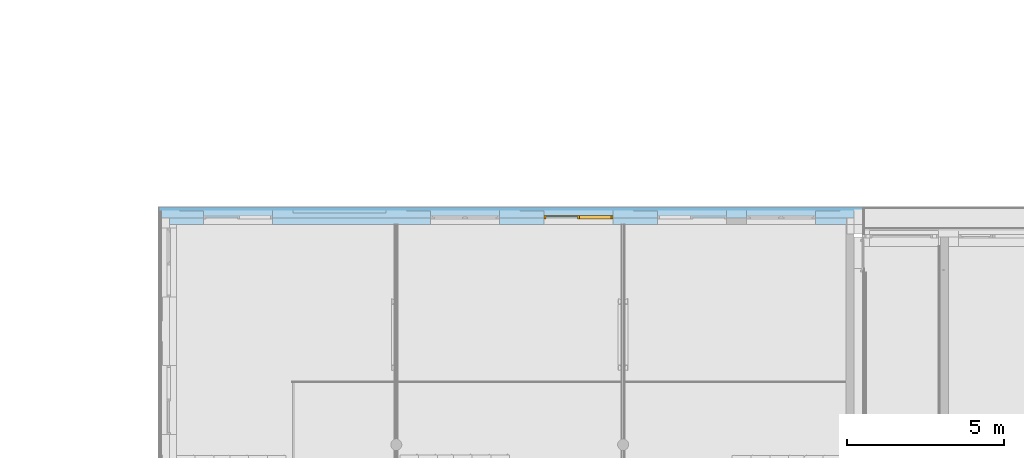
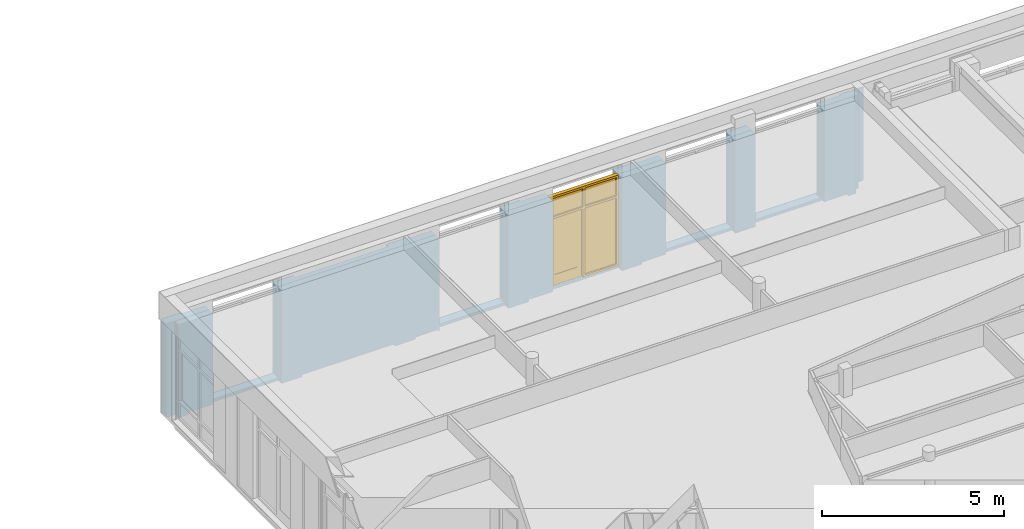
# One storey, part 42 of 167: 1 door, 11 openings, 1 element without a shape of its own, plus 3 elements that do not belong to this part.
"""IFC2X3 building model written with IfcOpenShell, lengths in millimetres."""

from ifc_helpers import new_model, entity, si_unit, converted_unit, derived_unit, money_unit, direction, frame, origin_with_axes, place, context, subcontext, project, spatial, open_shell, faceted_brep, surface_model, source, transform, mapped, material, type_object, type_shapes, element, fill, aggregate, save


model = new_model("IFC2X3")

# Units and contexts
model_context = context("Model", 3, precision=0.01, world=origin_with_axes(), true_north=direction((0.0, 1.0)))
plan_context = context("Plan", 3, precision=0.01, world=origin_with_axes(), true_north=direction((0.0, 1.0)))
body_context = subcontext(model_context, "Body", "Model", "MODEL_VIEW")
ifc_project = project(units=[si_unit("LENGTHUNIT", "METRE", prefix="MILLI"), si_unit("AREAUNIT", "SQUARE_METRE"), si_unit("VOLUMEUNIT", "CUBIC_METRE"), converted_unit("PLANEANGLEUNIT", "DEGREE", entity("IfcPlaneAngleMeasure", 0.0174532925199), si_unit("PLANEANGLEUNIT", "RADIAN"), dimensions=[0, 0, 0, 0, 0, 0, 0]), si_unit("SOLIDANGLEUNIT", "STERADIAN"), money_unit("EUR"), converted_unit("TIMEUNIT", "Year", entity("IfcTimeMeasure", 31556926.0), si_unit("TIMEUNIT", "SECOND"), dimensions=[0, 0, 1, 0, 0, 0, 0]), si_unit("MASSUNIT", "GRAM", prefix="KILO"), si_unit("THERMODYNAMICTEMPERATUREUNIT", "DEGREE_CELSIUS"), si_unit("LUMINOUSINTENSITYUNIT", "LUMEN"), si_unit("ENERGYUNIT", "JOULE", prefix="MEGA"), derived_unit("THERMALCONDUCTANCEUNIT", [(si_unit("POWERUNIT", "WATT"), 1), (si_unit("LENGTHUNIT", "METRE"), -1), (si_unit("THERMODYNAMICTEMPERATUREUNIT", "KELVIN"), -1)]), derived_unit("SPECIFICHEATCAPACITYUNIT", [(si_unit("ENERGYUNIT", "JOULE"), 1), (si_unit("MASSUNIT", "GRAM", prefix="KILO"), -1), (si_unit("THERMODYNAMICTEMPERATUREUNIT", "KELVIN"), -1)]), derived_unit("MASSDENSITYUNIT", [(si_unit("MASSUNIT", "GRAM", prefix="KILO"), 1), (si_unit("VOLUMEUNIT", "CUBIC_METRE"), -1)])], contexts=[model_context, plan_context])

# Site, building, storey
site_placement = place(None, origin_with_axes())
site = spatial("IfcSite", under=ifc_project, at=site_placement, Name="Site", CompositionType="ELEMENT")
building_placement = place(site_placement, origin_with_axes())
building = spatial("IfcBuilding", under=site, at=building_placement, Name="Naam gebouw", CompositionType="ELEMENT")
storey_placement = place(building_placement, origin_with_axes())
storey = spatial("IfcBuildingStorey", under=building, at=storey_placement, Name="Begane grond", CompositionType="ELEMENT", Elevation=0.0)

# Door
door_style = type_object("IfcDoorStyle", Name="D1 bl zl1-b 24", ConstructionType="NOTDEFINED", OperationType="SINGLE_SWING_LEFT", ParameterTakesPrecedence=False, Sizeable=False)
shared_shape = source(origin_with_axes(), body_context, "Body", "SurfaceModel", [
    faceted_brep([(1095.0, 0.0, 0.0), (1095.0, -114.0, 0.0), (1028.0, -114.0, 0.0), (1028.0, 0.0, 0.0), (1095.0, 0.0, 2983.0), (1095.0, -114.0, 2983.0), (1028.0, -114.0, 2983.0), (1028.0, -114.0, 2367.0), (1028.0, -114.0, 2300.0), (1028.0, -114.0, 67.0), (1028.0, 0.0, 67.0), (1028.0, 0.0, 2300.0), (1028.0, 0.0, 2367.0), (1028.0, 0.0, 2983.0)], [[[0, 1, 2, 3]], [[4, 5, 1, 0]], [[1, 5, 6, 7, 8, 9, 2]], [[3, 2, 9, 10]], [[0, 3, 10, 11, 12, 13, 4]], [[13, 6, 5, 4]], [[12, 7, 6, 13]], [[11, 8, 7, 12]], [[10, 9, 8, 11]]]),
    faceted_brep([(-28.0, -40.0, 2317.0), (-28.0, -40.0, 2300.0), (-28.0, -114.0, 2300.0), (-28.0, -114.0, 2367.0), (-28.0, 0.0, 2367.0), (-28.0, 0.0, 2317.0), (-11.0, -40.0, 2317.0), (-11.0, -40.0, 0.0), (-28.0, -40.0, 0.0), (-28.0, -114.0, 0.0), (39.0, -114.0, 0.0), (39.0, -114.0, 67.0), (39.0, -114.0, 2300.0), (39.0, -114.0, 2367.0), (39.0, -114.0, 2983.0), (-28.0, -114.0, 2983.0), (-28.0, 0.0, 2983.0), (-11.0, 0.0, 2317.0), (39.0, 0.0, 2983.0), (39.0, 0.0, 2367.0), (39.0, 0.0, 2300.0), (39.0, 0.0, 67.0), (39.0, 0.0, 0.0), (-11.0, 0.0, 0.0)], [[[0, 1, 2, 3, 4, 5]], [[0, 6, 7, 8, 1]], [[8, 9, 2, 1]], [[2, 9, 10, 11, 12, 13, 14, 15, 3]], [[16, 4, 3, 15]], [[17, 5, 4, 16, 18, 19, 20, 21, 22, 23]], [[5, 17, 6, 0]], [[23, 7, 6, 17]], [[7, 23, 22, 10, 9, 8]], [[22, 21, 11, 10]], [[21, 20, 12, 11]], [[20, 19, 13, 12]], [[19, 18, 14, 13]], [[18, 16, 15, 14]]]),
    faceted_brep([(1028.0, 0.0, 67.0), (1028.0, -114.0, 67.0), (1028.0, -114.0, 0.0), (1028.0, 0.0, 0.0), (39.0, 0.0, 67.0), (39.0, -114.0, 67.0), (39.0, -114.0, 0.0), (39.0, 0.0, 0.0)], [[[0, 1, 2, 3]], [[4, 5, 1, 0]], [[1, 5, 6, 2]], [[3, 2, 6, 7]], [[0, 3, 7, 4]], [[7, 6, 5, 4]]]),
    faceted_brep([(-1045.0, 0.0, 2317.0), (-1045.0, 0.0, 0.0), (-1095.0, 0.0, 0.0), (-1095.0, 0.0, 2983.0), (-1028.0, 0.0, 2983.0), (-1028.0, 0.0, 2367.0), (-1028.0, 0.0, 2317.0), (-1045.0, -40.0, 2317.0), (-1045.0, -40.0, 0.0), (-1028.0, -40.0, 0.0), (-1028.0, -114.0, 0.0), (-1095.0, -114.0, 0.0), (-1095.0, -114.0, 2983.0), (-1028.0, -114.0, 2983.0), (-1028.0, -114.0, 2367.0), (-1028.0, -40.0, 2317.0), (-1028.0, -114.0, 2300.0)], [[[0, 1, 2, 3, 4, 5, 6]], [[0, 7, 8, 1]], [[8, 9, 10, 11, 2, 1]], [[3, 2, 11, 12]], [[4, 3, 12, 13]], [[5, 4, 13, 14]], [[15, 6, 5, 14, 16, 10, 9]], [[6, 15, 7, 0]], [[8, 7, 15, 9]], [[14, 13, 12, 11, 10, 16]]]),
    faceted_brep([(1095.0, 0.0, 3050.0), (1095.0, -114.0, 3050.0), (1095.0, -114.0, 2983.0), (1095.0, 0.0, 2983.0), (-1095.0, 0.0, 3050.0), (-1095.0, -114.0, 3050.0), (-1095.0, -114.0, 2983.0), (-1028.0, -114.0, 2983.0), (-28.0, -114.0, 2983.0), (39.0, -114.0, 2983.0), (1028.0, -114.0, 2983.0), (1028.0, 0.0, 2983.0), (39.0, 0.0, 2983.0), (-28.0, 0.0, 2983.0), (-1028.0, 0.0, 2983.0), (-1095.0, 0.0, 2983.0)], [[[0, 1, 2, 3]], [[4, 5, 1, 0]], [[1, 5, 6, 7, 8, 9, 10, 2]], [[3, 2, 10, 11]], [[0, 3, 11, 12, 13, 14, 15, 4]], [[15, 6, 5, 4]], [[14, 7, 6, 15]], [[13, 8, 7, 14]], [[12, 9, 8, 13]], [[11, 10, 9, 12]]]),
    faceted_brep([(1028.0, 0.0, 2300.0), (1028.0, -114.0, 2300.0), (39.0, -114.0, 2300.0), (39.0, 0.0, 2300.0), (1028.0, 0.0, 2367.0), (1028.0, -114.0, 2367.0), (39.0, -114.0, 2367.0), (39.0, 0.0, 2367.0)], [[[0, 1, 2, 3]], [[4, 5, 1, 0]], [[1, 5, 6, 2]], [[3, 2, 6, 7]], [[0, 3, 7, 4]], [[7, 6, 5, 4]]]),
    faceted_brep([(-1028.0, -40.0, 2317.0), (-1028.0, -40.0, 2300.0), (-1028.0, -114.0, 2300.0), (-1028.0, -114.0, 2367.0), (-1028.0, 0.0, 2367.0), (-1028.0, 0.0, 2317.0), (-28.0, -40.0, 2317.0), (-28.0, -40.0, 2300.0), (-28.0, -114.0, 2300.0), (-28.0, -114.0, 2367.0), (-28.0, 0.0, 2367.0), (-28.0, 0.0, 2317.0)], [[[0, 1, 2, 3, 4, 5]], [[0, 6, 7, 1]], [[7, 8, 2, 1]], [[8, 9, 3, 2]], [[10, 4, 3, 9]], [[5, 4, 10, 11]], [[5, 11, 6, 0]], [[6, 11, 10, 9, 8, 7]]]),
    faceted_brep([(-1045.0, 0.0, 350.0), (-895.0, 0.0, 350.0), (-895.0, -40.0, 350.0), (-1045.0, -40.0, 350.0), (-1045.0, 0.0, 2167.0), (-895.0, 0.0, 2167.0), (-895.0, -40.0, 2167.0), (-1045.0, -40.0, 2167.0)], [[[0, 1, 2, 3]], [[0, 4, 5, 1]], [[1, 5, 6, 2]], [[3, 2, 6, 7]], [[4, 0, 3, 7]], [[5, 4, 7, 6]]]),
    faceted_brep([(-11.0, 0.0, 350.0), (-11.0, 0.0, 2167.0), (-11.0, -40.0, 2167.0), (-11.0, -40.0, 350.0), (-161.0, 0.0, 350.0), (-161.0, 0.0, 2167.0), (-161.0, -40.0, 2167.0), (-161.0, -40.0, 350.0)], [[[0, 1, 2, 3]], [[0, 4, 5, 1]], [[1, 5, 6, 2]], [[3, 2, 6, 7]], [[4, 0, 3, 7]], [[5, 4, 7, 6]]]),
    faceted_brep([(-1045.0, 0.0, 0.0), (-11.0, 0.0, 0.0), (-11.0, -40.0, 0.0), (-1045.0, -40.0, 0.0), (-1045.0, 0.0, 350.0), (-895.0, 0.0, 350.0), (-161.0, 0.0, 350.0), (-11.0, 0.0, 350.0), (-11.0, -40.0, 350.0), (-161.0, -40.0, 350.0), (-895.0, -40.0, 350.0), (-1045.0, -40.0, 350.0)], [[[0, 1, 2, 3]], [[0, 4, 5, 6, 7, 1]], [[1, 7, 8, 2]], [[3, 2, 8, 9, 10, 11]], [[4, 0, 3, 11]], [[5, 4, 11, 10]], [[6, 5, 10, 9]], [[7, 6, 9, 8]]]),
    faceted_brep([(-1045.0, 0.0, 2317.0), (-1045.0, 0.0, 2167.0), (-1045.0, -40.0, 2167.0), (-1045.0, -40.0, 2317.0), (-11.0, 0.0, 2317.0), (-11.0, 0.0, 2167.0), (-161.0, 0.0, 2167.0), (-895.0, 0.0, 2167.0), (-895.0, -40.0, 2167.0), (-161.0, -40.0, 2167.0), (-11.0, -40.0, 2167.0), (-11.0, -40.0, 2317.0)], [[[0, 1, 2, 3]], [[0, 4, 5, 6, 7, 1]], [[1, 7, 8, 2]], [[3, 2, 8, 9, 10, 11]], [[4, 0, 3, 11]], [[5, 4, 11, 10]], [[6, 5, 10, 9]], [[7, 6, 9, 8]]]),
    surface_model("IfcShellBasedSurfaceModel", [(-895.0, -14.0, 350.0), (-895.0, -14.0, 2167.0), (-161.0, -14.0, 2167.0), (-161.0, -14.0, 350.0)], [open_shell([[[0, 1, 2, 3]]])]),
    surface_model("IfcShellBasedSurfaceModel", [(-895.0, -26.0, 350.0), (-161.0, -26.0, 350.0), (-161.0, -26.0, 2167.0), (-895.0, -26.0, 2167.0)], [open_shell([[[0, 1, 2, 3]]])]),
    surface_model("IfcShellBasedSurfaceModel", [(1028.0, -54.0, 2367.0), (39.0, -54.0, 2367.0), (39.0, -54.0, 2983.0), (1028.0, -54.0, 2983.0)], [open_shell([[[0, 1, 2, 3]]])]),
    surface_model("IfcShellBasedSurfaceModel", [(1028.0, -66.0, 2367.0), (1028.0, -66.0, 2983.0), (39.0, -66.0, 2983.0), (39.0, -66.0, 2367.0)], [open_shell([[[0, 1, 2, 3]]])]),
    surface_model("IfcShellBasedSurfaceModel", [(-28.0, -54.0, 2367.0), (-1028.0, -54.0, 2367.0), (-1028.0, -54.0, 2983.0), (-28.0, -54.0, 2983.0)], [open_shell([[[0, 1, 2, 3]]])]),
    surface_model("IfcShellBasedSurfaceModel", [(-28.0, -66.0, 2367.0), (-28.0, -66.0, 2983.0), (-1028.0, -66.0, 2983.0), (-1028.0, -66.0, 2367.0)], [open_shell([[[0, 1, 2, 3]]])]),
    surface_model("IfcShellBasedSurfaceModel", [(1028.0, -54.0, 67.0), (39.0, -54.0, 67.0), (39.0, -54.0, 2300.0), (1028.0, -54.0, 2300.0)], [open_shell([[[0, 1, 2, 3]]])]),
    surface_model("IfcShellBasedSurfaceModel", [(1028.0, -66.0, 67.0), (1028.0, -66.0, 2300.0), (39.0, -66.0, 2300.0), (39.0, -66.0, 67.0)], [open_shell([[[0, 1, 2, 3]]])]),
])
type_shapes(door_style, [shared_shape])
wall_placement = place(storey_placement, frame((21725.0, 50400.0, -100.0), z_axis=(0.0, 0.0, 1.0), x_axis=(-1.0, 0.0, 0.0)))
opening_10_placement = place(wall_placement, frame((8742.63594407, 0.0, 100.0), z_axis=(0.0, 0.0, 1.0), x_axis=(1.0, 0.0, 0.0)))
door_placement = place(opening_10_placement, frame((1095.0, 0.0, 0.0), z_axis=(0.0, 0.0, 1.0), x_axis=(-1.0, 0.0, 0.0)))
door = element("IfcDoor", 1, at=door_placement, inside=storey, type_object=door_style, Name="32_Deur_He-08s", ObjectType="DOOR", OverallHeight=3050.0, OverallWidth=2190.0, context=body_context, shape_type="MappedRepresentation", body=[
    mapped(shared_shape, transform((1095.0, 84.0, 0.0))),
])

# Wall, openings
wall_type = type_object("IfcWallType", Name="_TenW_21_E-BOARD_bg_standaard 498", PredefinedType="NOTDEFINED")
wall = element("IfcWall", 2, at=wall_placement, inside=storey, type_object=wall_type, Name="21_Wand_Wand-x")
opening_1_placement = place(wall_placement, frame((21020.6609441, 0.0, 100.0), z_axis=(0.0, 0.0, 1.0), x_axis=(1.0, 0.0, 0.0)))
element("IfcOpeningElement", 3, at=opening_1_placement, cuts=wall, Name="31_Raam_-", context=body_context, shape_type="Brep", body=[
    faceted_brep([(382.125, -782.0, 0.0), (-382.125, -782.0, 0.0), (-382.125, -224.0, 0.0), (382.125, -224.0, 0.0), (382.125, -782.0, 3050.0), (-382.125, -782.0, 3050.0), (-382.125, -224.0, 3050.0), (382.125, -224.0, 3050.0)], [[[0, 1, 2, 3]], [[0, 4, 5, 1]], [[1, 5, 6, 2]], [[3, 2, 6, 7]], [[4, 0, 3, 7]], [[5, 4, 7, 6]]]),
])
opening_2_placement = place(wall_placement, frame((16325.0859441, 0.0, 100.0), z_axis=(0.0, 0.0, 1.0), x_axis=(1.0, 0.0, 0.0)))
element("IfcOpeningElement", 4, at=opening_2_placement, cuts=wall, Name="31_Raam_-", context=body_context, shape_type="Brep", body=[
    faceted_brep([(1477.4, -782.0, 0.0), (-1477.4, -782.0, 0.0), (-1477.4, -160.0, 0.0), (1477.4, -160.0, 0.0), (1477.4, -782.0, 3050.0), (-1477.4, -782.0, 3050.0), (-1477.4, -160.0, 3050.0), (1477.4, -160.0, 3050.0)], [[[0, 1, 2, 3]], [[0, 4, 5, 1]], [[1, 5, 6, 2]], [[3, 2, 6, 7]], [[4, 0, 3, 7]], [[5, 4, 7, 6]]]),
])
opening_3_placement = place(wall_placement, frame((13820.0609441, 0.0, 100.0), z_axis=(0.0, 0.0, 1.0), x_axis=(1.0, 0.0, 0.0)))
element("IfcOpeningElement", 5, at=opening_3_placement, cuts=wall, Name="31_Raam_-", context=body_context, shape_type="Brep", body=[
    faceted_brep([(382.125, -782.0, 0.0), (-382.125, -782.0, 0.0), (-382.125, -224.0, 0.0), (382.125, -224.0, 0.0), (382.125, -782.0, 3050.0), (-382.125, -782.0, 3050.0), (-382.125, -224.0, 3050.0), (382.125, -224.0, 3050.0)], [[[0, 1, 2, 3]], [[0, 4, 5, 1]], [[1, 5, 6, 2]], [[3, 2, 6, 7]], [[4, 0, 3, 7]], [[5, 4, 7, 6]]]),
])
opening_4_placement = place(wall_placement, frame((10219.7609441, 0.0, 100.0), z_axis=(0.0, 0.0, 1.0), x_axis=(1.0, 0.0, 0.0)))
element("IfcOpeningElement", 6, at=opening_4_placement, cuts=wall, Name="31_Raam_-", context=body_context, shape_type="Brep", body=[
    faceted_brep([(382.125, -782.0, 0.0), (-382.125, -782.0, 0.0), (-382.125, -224.0, 0.0), (382.125, -224.0, 0.0), (382.125, -782.0, 3050.0), (-382.125, -782.0, 3050.0), (-382.125, -224.0, 3050.0), (382.125, -224.0, 3050.0)], [[[0, 1, 2, 3]], [[0, 4, 5, 1]], [[1, 5, 6, 2]], [[3, 2, 6, 7]], [[4, 0, 3, 7]], [[5, 4, 7, 6]]]),
])
opening_5_placement = place(wall_placement, frame((6619.46094407, 0.0, 100.0), z_axis=(0.0, 0.0, 1.0), x_axis=(1.0, 0.0, 0.0)))
element("IfcOpeningElement", 7, at=opening_5_placement, cuts=wall, Name="31_Raam_-", context=body_context, shape_type="Brep", body=[
    faceted_brep([(382.125, -782.0, 0.0), (-382.125, -782.0, 0.0), (-382.125, -224.0, 0.0), (382.125, -224.0, 0.0), (382.125, -782.0, 3050.0), (-382.125, -782.0, 3050.0), (-382.125, -224.0, 3050.0), (382.125, -224.0, 3050.0)], [[[0, 1, 2, 3]], [[0, 4, 5, 1]], [[1, 5, 6, 2]], [[3, 2, 6, 7]], [[4, 0, 3, 7]], [[5, 4, 7, 6]]]),
])
opening_6_placement = place(wall_placement, frame((828.610944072, 0.0, 100.0), z_axis=(0.0, 0.0, 1.0), x_axis=(1.0, 0.0, 0.0)))
element("IfcOpeningElement", 8, at=opening_6_placement, cuts=wall, Name="31_Raam_-", context=body_context, shape_type="Brep", body=[
    faceted_brep([(382.125, -782.0, 0.0), (-382.125, -782.0, 0.0), (-382.125, -224.0, 0.0), (382.125, -224.0, 0.0), (382.125, -782.0, 3050.0), (-382.125, -782.0, 3050.0), (-382.125, -224.0, 3050.0), (382.125, -224.0, 3050.0)], [[[0, 1, 2, 3]], [[0, 4, 5, 1]], [[1, 5, 6, 2]], [[3, 2, 6, 7]], [[4, 0, 3, 7]], [[5, 4, 7, 6]]]),
])
opening_7_placement = place(wall_placement, frame((12342.3859441, 0.0, 100.0), z_axis=(0.0, 0.0, 1.0), x_axis=(1.0, 0.0, 0.0)))
element("IfcOpeningElement", 9, at=opening_7_placement, cuts=wall, Name="31_Raam_He-16", context=body_context, shape_type="Brep", body=[
    faceted_brep([(-1095.0, -84.0, 0.0), (-1095.0, -84.0, 3050.0), (-1095.0, 712.0, 3050.0), (-1095.0, 712.0, 0.0), (1095.0, -84.0, 0.0), (1095.0, -84.0, 3050.0), (1095.0, 712.0, 3050.0), (1095.0, 712.0, 0.0)], [[[0, 1, 2, 3]], [[0, 4, 5, 1]], [[1, 5, 6, 2]], [[3, 2, 6, 7]], [[4, 0, 3, 7]], [[5, 4, 7, 6]]]),
    faceted_brep([(-1095.0, -84.0, 3050.0), (-1095.0, -84.0, 0.0), (-1095.0, -782.0, 0.0), (-1095.0, -782.0, 3050.0), (1095.0, -84.0, 3050.0), (1095.0, -84.0, 0.0), (1095.0, -782.0, 0.0), (1095.0, -782.0, 3050.0)], [[[0, 1, 2, 3]], [[0, 4, 5, 1]], [[1, 5, 6, 2]], [[3, 2, 6, 7]], [[4, 0, 3, 7]], [[5, 4, 7, 6]]]),
])
opening_8_placement = place(wall_placement, frame((2305.73594407, 0.0, 100.0), z_axis=(0.0, 0.0, 1.0), x_axis=(1.0, 0.0, 0.0)))
element("IfcOpeningElement", 10, at=opening_8_placement, cuts=wall, Name="31_Raam_He-16", context=body_context, shape_type="Brep", body=[
    faceted_brep([(-1095.0, -84.0, 0.0), (-1095.0, -84.0, 3050.0), (-1095.0, 712.0, 3050.0), (-1095.0, 712.0, 0.0), (1095.0, -84.0, 0.0), (1095.0, -84.0, 3050.0), (1095.0, 712.0, 3050.0), (1095.0, 712.0, 0.0)], [[[0, 1, 2, 3]], [[0, 4, 5, 1]], [[1, 5, 6, 2]], [[3, 2, 6, 7]], [[4, 0, 3, 7]], [[5, 4, 7, 6]]]),
    faceted_brep([(-1095.0, -84.0, 3050.0), (-1095.0, -84.0, 0.0), (-1095.0, -782.0, 0.0), (-1095.0, -782.0, 3050.0), (1095.0, -84.0, 3050.0), (1095.0, -84.0, 0.0), (1095.0, -782.0, 0.0), (1095.0, -782.0, 3050.0)], [[[0, 1, 2, 3]], [[0, 4, 5, 1]], [[1, 5, 6, 2]], [[3, 2, 6, 7]], [[4, 0, 3, 7]], [[5, 4, 7, 6]]]),
])
opening_9_placement = place(wall_placement, frame((19543.5359441, 0.0, 100.0), z_axis=(0.0, 0.0, 1.0), x_axis=(1.0, 0.0, 0.0)))
element("IfcOpeningElement", 11, at=opening_9_placement, cuts=wall, Name="32_Deur_He-08s", context=body_context, shape_type="Brep", body=[
    faceted_brep([(1095.0, -84.0, 3050.0), (1095.0, -84.0, 0.0), (1095.0, 712.0, 0.0), (1095.0, 712.0, 3050.0), (-1095.0, -84.0, 3050.0), (-1095.0, -84.0, 0.0), (-1095.0, 712.0, 0.0), (-1095.0, 712.0, 3050.0)], [[[0, 1, 2, 3]], [[0, 4, 5, 1]], [[1, 5, 6, 2]], [[3, 2, 6, 7]], [[4, 0, 3, 7]], [[5, 4, 7, 6]]]),
    faceted_brep([(1095.0, -84.0, 0.0), (1095.0, -84.0, 3050.0), (1095.0, -782.0, 3050.0), (1095.0, -782.0, 0.0), (-1095.0, -84.0, 0.0), (-1095.0, -84.0, 3050.0), (-1095.0, -782.0, 3050.0), (-1095.0, -782.0, 0.0)], [[[0, 1, 2, 3]], [[0, 4, 5, 1]], [[1, 5, 6, 2]], [[3, 2, 6, 7]], [[4, 0, 3, 7]], [[5, 4, 7, 6]]]),
])
opening_10 = element("IfcOpeningElement", 12, at=opening_10_placement, cuts=wall, Name="32_Deur_He-08s", context=body_context, shape_type="Brep", body=[
    faceted_brep([(1095.0, -84.0, 3050.0), (1095.0, -84.0, 0.0), (1095.0, 712.0, 0.0), (1095.0, 712.0, 3050.0), (-1095.0, -84.0, 3050.0), (-1095.0, -84.0, 0.0), (-1095.0, 712.0, 0.0), (-1095.0, 712.0, 3050.0)], [[[0, 1, 2, 3]], [[0, 4, 5, 1]], [[1, 5, 6, 2]], [[3, 2, 6, 7]], [[4, 0, 3, 7]], [[5, 4, 7, 6]]]),
    faceted_brep([(1095.0, -84.0, 0.0), (1095.0, -84.0, 3050.0), (1095.0, -782.0, 3050.0), (1095.0, -782.0, 0.0), (-1095.0, -84.0, 0.0), (-1095.0, -84.0, 3050.0), (-1095.0, -782.0, 3050.0), (-1095.0, -782.0, 0.0)], [[[0, 1, 2, 3]], [[0, 4, 5, 1]], [[1, 5, 6, 2]], [[3, 2, 6, 7]], [[4, 0, 3, 7]], [[5, 4, 7, 6]]]),
])

fill(opening_10, door)

# Opening
opening_11_placement = place(wall_placement, frame((5142.33594407, 0.0, 100.0), z_axis=(0.0, 0.0, 1.0), x_axis=(1.0, 0.0, 0.0)))
element("IfcOpeningElement", 13, at=opening_11_placement, cuts=wall, Name="32_Deur_He-08", context=body_context, shape_type="Brep", body=[
    faceted_brep([(-1095.0, 712.0, 3050.0), (-1095.0, 712.0, 0.0), (-1095.0, -84.0, 0.0), (-1095.0, -84.0, 3050.0), (1095.0, 712.0, 3050.0), (1095.0, 712.0, 0.0), (1095.0, -84.0, 0.0), (1095.0, -84.0, 3050.0)], [[[0, 1, 2, 3]], [[0, 4, 5, 1]], [[1, 5, 6, 2]], [[3, 2, 6, 7]], [[4, 0, 3, 7]], [[5, 4, 7, 6]]]),
    faceted_brep([(-1095.0, -782.0, 0.0), (-1095.0, -782.0, 3050.0), (-1095.0, -84.0, 3050.0), (-1095.0, -84.0, 0.0), (1095.0, -782.0, 0.0), (1095.0, -782.0, 3050.0), (1095.0, -84.0, 3050.0), (1095.0, -84.0, 0.0)], [[[0, 1, 2, 3]], [[0, 4, 5, 1]], [[1, 5, 6, 2]], [[3, 2, 6, 7]], [[4, 0, 3, 7]], [[5, 4, 7, 6]]]),
])

# Building element part
ifc_material_1 = material(Name="Steen - Kalkzandsteen C")
building_element_part_1_placement = place(wall_placement, origin_with_axes())
building_element_part_1 = element("IfcBuildingElementPart", 14, at=building_element_part_1_placement, material=ifc_material_1, Name="Steen - Kalkzandsteen C", context=body_context, shape_type="Brep", body=[
    faceted_brep([(6237.33594407, 214.0, 3150.0), (6237.33594407, 0.0, 3150.0), (7647.63594407, 0.0, 3150.0), (7647.63594407, 214.0, 3150.0), (6237.33594407, 0.0, 100.0), (6237.33594407, 214.0, 100.0), (7001.58594407, 0.0, 100.0), (7001.58594407, 0.0, 30.0), (7647.63594407, 0.0, 30.0), (7647.63594407, 0.0, 100.0), (7647.63594407, 214.0, 100.0), (7647.63594407, 214.0, 30.0), (7001.58594407, 214.0, 30.0), (7001.58594407, 214.0, 100.0)], [[[0, 1, 2, 3]], [[4, 1, 0, 5]], [[1, 4, 6, 7, 8, 9, 2]], [[2, 9, 10, 3]], [[5, 0, 3, 10, 11, 12, 13]], [[4, 5, 13, 6]], [[13, 12, 7, 6]], [[7, 12, 11, 8]], [[9, 8, 11, 10]]]),
    faceted_brep([(14847.6859441, 0.0, 100.0), (17802.4859441, 0.0, 100.0), (17802.4859441, 0.0, 30.0), (18448.5359441, 0.0, 30.0), (18448.5359441, 0.0, 100.0), (18448.5359441, 0.0, 3150.0), (13437.3859441, 0.0, 3150.0), (13437.3859441, 0.0, 100.0), (13437.3859441, 0.0, 30.0), (13437.9359441, 0.0, 30.0), (13437.9359441, 0.0, 100.0), (14202.1859441, 0.0, 100.0), (14202.1859441, 0.0, 30.0), (14847.6859441, 0.0, 30.0), (14847.6859441, 214.0, 100.0), (17802.4859441, 214.0, 100.0), (17802.4859441, 214.0, 30.0), (18448.5359441, 214.0, 30.0), (18448.5359441, 214.0, 100.0), (18448.5359441, 214.0, 3150.0), (13437.3859441, 214.0, 3150.0), (13437.3859441, 214.0, 100.0), (13437.3859441, 214.0, 30.0), (13437.9359441, 214.0, 30.0), (13437.9359441, 214.0, 100.0), (14202.1859441, 214.0, 100.0), (14202.1859441, 214.0, 30.0), (14847.6859441, 214.0, 30.0)], [[[0, 1, 2, 3, 4, 5, 6, 7, 8, 9, 10, 11, 12, 13]], [[1, 0, 14, 15]], [[2, 1, 15, 16]], [[17, 3, 2, 16]], [[18, 4, 3, 17]], [[19, 5, 4, 18]], [[5, 19, 20, 6]], [[21, 7, 6, 20]], [[8, 7, 21, 22]], [[23, 9, 8, 22]], [[10, 9, 23, 24]], [[11, 10, 24, 25]], [[12, 11, 25, 26]], [[27, 13, 12, 26]], [[0, 13, 27, 14]], [[23, 22, 21, 20, 19, 18, 17, 16, 15, 14, 27, 26, 25, 24]]]),
    faceted_brep([(1210.73594407, 0.0, 100.0), (1210.73594407, 0.0, 3150.0), (214.0, 0.0, 3150.0), (214.0, 0.0, 30.0), (446.485944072, 0.0, 30.0), (446.485944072, 0.0, 100.0), (1210.73594407, 214.0, 100.0), (1210.73594407, 214.0, 3150.0), (214.0, 214.0, 3150.0), (214.0, 214.0, 30.0), (446.485944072, 214.0, 30.0), (446.485944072, 214.0, 100.0)], [[[0, 1, 2, 3, 4, 5]], [[0, 6, 7, 1]], [[8, 2, 1, 7]], [[9, 3, 2, 8]], [[10, 4, 3, 9]], [[5, 4, 10, 11]], [[5, 11, 6, 0]], [[7, 6, 11, 10, 9, 8]]]),
    faceted_brep([(11247.3859441, 0.0, 3150.0), (11247.3859441, 214.0, 3150.0), (9837.63594407, 214.0, 3150.0), (9837.63594407, 0.0, 3150.0), (11247.3859441, 0.0, 100.0), (11247.3859441, 214.0, 100.0), (10601.8859441, 214.0, 30.0), (10601.8859441, 214.0, 100.0), (9837.63594407, 214.0, 100.0), (11247.3859441, 214.0, 30.0), (9837.63594407, 0.0, 100.0), (10601.8859441, 0.0, 100.0), (10601.8859441, 0.0, 30.0), (11247.3859441, 0.0, 30.0)], [[[0, 1, 2, 3]], [[4, 5, 1, 0]], [[6, 7, 8, 2, 1, 5, 9]], [[2, 8, 10, 3]], [[4, 0, 3, 10, 11, 12, 13]], [[13, 9, 5, 4]], [[6, 12, 11, 7]], [[7, 11, 10, 8]], [[6, 9, 13, 12]]]),
    faceted_brep([(20638.5359441, 214.0, 3150.0), (20638.5359441, 0.0, 3150.0), (21725.0, 0.0, 3150.0), (21725.0, 214.0, 3150.0), (20638.5359441, 0.0, 100.0), (20638.5359441, 214.0, 100.0), (21402.7859441, 0.0, 100.0), (21402.7859441, 0.0, 30.0), (21725.0, 0.0, 30.0), (21725.0, 214.0, 30.0), (21402.7859441, 214.0, 30.0), (21402.7859441, 214.0, 100.0)], [[[0, 1, 2, 3]], [[4, 1, 0, 5]], [[6, 7, 8, 2, 1, 4]], [[8, 9, 3, 2]], [[3, 9, 10, 11, 5, 0]], [[4, 5, 11, 6]], [[7, 6, 11, 10]], [[7, 10, 9, 8]]]),
    faceted_brep([(4047.33594407, 0.0, 100.0), (4047.33594407, 0.0, 3150.0), (3400.73594407, 0.0, 3150.0), (3400.73594407, 0.0, 100.0), (3400.73594407, 0.0, 30.0), (4047.33594407, 0.0, 30.0), (4047.33594407, 214.0, 3150.0), (4047.33594407, 214.0, 100.0), (3400.73594407, 214.0, 3150.0), (3400.73594407, 214.0, 100.0), (3400.73594407, 214.0, 30.0), (4047.33594407, 214.0, 30.0)], [[[0, 1, 2, 3, 4, 5]], [[6, 1, 0, 7]], [[1, 6, 8, 2]], [[3, 2, 8, 9]], [[3, 9, 10, 4]], [[4, 10, 11, 5]], [[7, 0, 5, 11]], [[6, 7, 11, 10, 9, 8]]]),
])

ifc_material_2 = material(Name="Isolatie - Steenwol zacht")
building_element_part_2_placement = place(wall_placement, origin_with_axes())
building_element_part_2 = element("IfcBuildingElementPart", 15, at=building_element_part_2_placement, material=ifc_material_2, Name="Isolatie - Steenwol zacht", context=body_context, shape_type="Brep", body=[
    faceted_brep([(4047.33594407, -84.0, 100.0), (4047.33594407, -84.0, 3150.0), (4047.33594407, -264.0, 3150.0), (4047.33594407, -264.0, 100.0), (4047.33594407, 0.0, 3150.0), (4047.33594407, 0.0, 100.0), (3400.73594407, 0.0, 3150.0), (3400.73594407, -84.0, 3150.0), (3400.73594407, -264.0, 3150.0), (7647.63594407, -264.0, 3150.0), (7001.58594407, -264.0, 3150.0), (7001.58594407, -264.0, 100.0), (3400.73594407, -264.0, 100.0), (446.485944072, -264.0, 100.0), (446.485944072, -264.0, 3150.0), (0.0, -264.0, 3150.0), (0.0, -264.0, 0.0), (21989.0, -264.0, 0.0), (21989.0, -264.0, 3150.0), (21402.7859441, -264.0, 3150.0), (21402.7859441, -264.0, 100.0), (18448.5359441, -264.0, 100.0), (18448.5359441, -264.0, 3150.0), (17802.4859441, -264.0, 3150.0), (17802.4859441, -264.0, 100.0), (14847.6859441, -264.0, 100.0), (14847.6859441, -264.0, 3150.0), (14202.1859441, -264.0, 3150.0), (14202.1859441, -264.0, 100.0), (13437.9359441, -264.0, 100.0), (13437.9359441, -264.0, 3150.0), (13437.3859441, -264.0, 3150.0), (13437.3859441, -264.0, 100.0), (11247.3859441, -264.0, 100.0), (11247.3859441, -264.0, 3150.0), (10601.8859441, -264.0, 3150.0), (10601.8859441, -264.0, 100.0), (7647.63594407, -264.0, 100.0), (6237.33594407, -84.0, 100.0), (7001.58594407, -224.0, 100.0), (6237.33594407, -224.0, 100.0), (6237.33594407, 0.0, 100.0), (6237.33594407, 0.0, 3150.0), (7647.63594407, 0.0, 3150.0), (7647.63594407, 0.0, 100.0), (9837.63594407, 0.0, 100.0), (9837.63594407, 0.0, 3150.0), (11247.3859441, 0.0, 3150.0), (11247.3859441, 0.0, 100.0), (13437.3859441, 0.0, 100.0), (13437.3859441, 0.0, 3150.0), (18448.5359441, 0.0, 3150.0), (18448.5359441, 0.0, 100.0), (20638.5359441, 0.0, 100.0), (20638.5359441, 0.0, 3150.0), (21989.0, 0.0, 3150.0), (21989.0, 0.0, 0.0), (0.0, 0.0, 0.0), (0.0, 0.0, 3150.0), (1210.73594407, 0.0, 3150.0), (1210.73594407, 0.0, 100.0), (3400.73594407, 0.0, 100.0), (3400.73594407, -84.0, 100.0), (6237.33594407, -84.0, 3150.0), (6237.33594407, -224.0, 3150.0), (7001.58594407, -224.0, 3150.0), (7647.63594407, -84.0, 3150.0), (1210.73594407, -84.0, 100.0), (1210.73594407, -224.0, 100.0), (446.485944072, -224.0, 100.0), (446.485944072, -224.0, 3150.0), (1210.73594407, -224.0, 3150.0), (1210.73594407, -84.0, 3150.0), (20638.5359441, -224.0, 3150.0), (21402.7859441, -224.0, 3150.0), (20638.5359441, -84.0, 3150.0), (21402.7859441, -224.0, 100.0), (20638.5359441, -84.0, 100.0), (18448.5359441, -84.0, 100.0), (20638.5359441, -224.0, 100.0), (18448.5359441, -84.0, 3150.0), (13437.3859441, -84.0, 3150.0), (13437.9359441, -224.0, 3150.0), (14202.1859441, -224.0, 3150.0), (14847.6859441, -160.0, 3150.0), (17802.4859441, -160.0, 3150.0), (17802.4859441, -160.0, 100.0), (14847.6859441, -160.0, 100.0), (14202.1859441, -224.0, 100.0), (13437.9359441, -224.0, 100.0), (13437.3859441, -84.0, 100.0), (11247.3859441, -84.0, 100.0), (11247.3859441, -84.0, 3150.0), (9837.63594407, -224.0, 3150.0), (10601.8859441, -224.0, 3150.0), (9837.63594407, -84.0, 3150.0), (10601.8859441, -224.0, 100.0), (9837.63594407, -84.0, 100.0), (7647.63594407, -84.0, 100.0), (9837.63594407, -224.0, 100.0)], [[[0, 1, 2, 3]], [[4, 1, 0, 5]], [[1, 4, 6, 7, 8, 2]], [[9, 10, 11, 3, 2, 8, 12, 13, 14, 15, 16, 17, 18, 19, 20, 21, 22, 23, 24, 25, 26, 27, 28, 29, 30, 31, 32, 33, 34, 35, 36, 37]], [[38, 0, 3, 11, 39, 40]], [[0, 38, 41, 5]], [[41, 42, 43, 44, 45, 46, 47, 48, 49, 50, 51, 52, 53, 54, 55, 56, 57, 58, 59, 60, 61, 6, 4, 5]], [[6, 61, 62, 7]], [[12, 8, 7, 62]], [[42, 63, 64, 65, 10, 9, 66, 43]], [[39, 11, 10, 65]], [[62, 67, 68, 69, 13, 12]], [[13, 69, 70, 14]], [[15, 14, 70, 71, 72, 59, 58]], [[58, 57, 16, 15]], [[56, 17, 16, 57]], [[17, 56, 55, 18]], [[73, 74, 19, 18, 55, 54, 75]], [[76, 20, 19, 74]], [[77, 78, 21, 20, 76, 79]], [[78, 80, 22, 21]], [[50, 81, 31, 30, 82, 83, 27, 26, 84, 85, 23, 22, 80, 51]], [[85, 86, 24, 23]], [[86, 87, 25, 24]], [[25, 87, 84, 26]], [[27, 83, 88, 28]], [[28, 88, 89, 29]], [[30, 29, 89, 82]], [[81, 90, 32, 31]], [[90, 91, 33, 32]], [[91, 92, 34, 33]], [[93, 94, 35, 34, 92, 47, 46, 95]], [[36, 35, 94, 96]], [[97, 98, 37, 36, 96, 99]], [[9, 37, 98, 66]], [[40, 39, 65, 64]], [[63, 38, 40, 64]], [[38, 63, 42, 41]], [[98, 44, 43, 66]], [[45, 44, 98, 97]], [[46, 45, 97, 95]], [[47, 92, 91, 48]], [[91, 90, 49, 48]], [[90, 81, 50, 49]], [[51, 80, 78, 52]], [[78, 77, 53, 52]], [[77, 75, 54, 53]], [[67, 60, 59, 72]], [[61, 60, 67, 62]], [[71, 68, 67, 72]], [[69, 68, 71, 70]], [[79, 76, 74, 73]], [[75, 77, 79, 73]], [[82, 89, 88, 83]], [[87, 86, 85, 84]], [[94, 93, 99, 96]], [[99, 93, 95, 97]]]),
])

ifc_material_3 = material(Name="_TenW_21_Steen - Baksteen")
building_element_part_3_placement = place(wall_placement, origin_with_axes())
building_element_part_3 = element("IfcBuildingElementPart", 16, at=building_element_part_3_placement, material=ifc_material_3, Name="_TenW_21_Steen - Baksteen", context=body_context, shape_type="Brep", body=[
    faceted_brep([(6237.33594407, -284.0, 100.0), (4047.33594407, -284.0, 100.0), (4047.33594407, -284.0, 3150.0), (3400.73594407, -284.0, 3150.0), (3400.73594407, -284.0, 100.0), (446.485944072, -284.0, 100.0), (446.485944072, -284.0, 3150.0), (-304.0, -284.0, 3150.0), (-304.0, -284.0, 0.0), (22009.0, -284.0, 0.0), (22009.0, -284.0, 3150.0), (21402.7859441, -284.0, 3150.0), (21402.7859441, -284.0, 100.0), (18448.5359441, -284.0, 100.0), (18448.5359441, -284.0, 3150.0), (17802.4859441, -284.0, 3150.0), (17802.4859441, -284.0, 100.0), (14847.6859441, -284.0, 100.0), (14847.6859441, -284.0, 3150.0), (14202.1859441, -284.0, 3150.0), (14202.1859441, -284.0, 100.0), (13437.9359441, -284.0, 100.0), (13437.9359441, -284.0, 3150.0), (13437.3859441, -284.0, 3150.0), (13437.3859441, -284.0, 100.0), (11247.3859441, -284.0, 100.0), (11247.3859441, -284.0, 3150.0), (10601.8859441, -284.0, 3150.0), (10601.8859441, -284.0, 100.0), (7647.63594407, -284.0, 100.0), (7647.63594407, -284.0, 3150.0), (7001.58594407, -284.0, 3150.0), (7001.58594407, -284.0, 100.0), (6237.33594407, -264.0, 100.0), (4047.33594407, -264.0, 100.0), (7001.58594407, -264.0, 100.0), (4047.33594407, -264.0, 3150.0), (3400.73594407, -264.0, 3150.0), (3400.73594407, -264.0, 100.0), (1210.73594407, -264.0, 100.0), (446.485944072, -264.0, 100.0), (446.485944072, -264.0, 3150.0), (-304.0, -264.0, 3150.0), (-304.0, -264.0, 0.0), (22009.0, -264.0, 0.0), (22009.0, -264.0, 3150.0), (21402.7859441, -264.0, 3150.0), (21402.7859441, -264.0, 100.0), (20638.5359441, -264.0, 100.0), (18448.5359441, -264.0, 100.0), (18448.5359441, -264.0, 3150.0), (17802.4859441, -264.0, 3150.0), (17802.4859441, -264.0, 100.0), (14847.6859441, -264.0, 100.0), (14847.6859441, -264.0, 3150.0), (14202.1859441, -264.0, 3150.0), (14202.1859441, -264.0, 100.0), (13437.9359441, -264.0, 100.0), (13437.9359441, -264.0, 3150.0), (13437.3859441, -264.0, 3150.0), (13437.3859441, -264.0, 100.0), (11247.3859441, -264.0, 100.0), (11247.3859441, -264.0, 3150.0), (10601.8859441, -264.0, 3150.0), (10601.8859441, -264.0, 100.0), (9837.63594407, -264.0, 100.0), (7647.63594407, -264.0, 100.0), (7647.63594407, -264.0, 3150.0), (7001.58594407, -264.0, 3150.0)], [[[0, 1, 2, 3, 4, 5, 6, 7, 8, 9, 10, 11, 12, 13, 14, 15, 16, 17, 18, 19, 20, 21, 22, 23, 24, 25, 26, 27, 28, 29, 30, 31, 32]], [[33, 34, 1, 0, 32, 35]], [[36, 2, 1, 34]], [[2, 36, 37, 3]], [[38, 4, 3, 37]], [[38, 39, 40, 5, 4]], [[6, 5, 40, 41]], [[41, 42, 7, 6]], [[42, 43, 8, 7]], [[44, 9, 8, 43]], [[9, 44, 45, 10]], [[10, 45, 46, 11]], [[46, 47, 12, 11]], [[47, 48, 49, 13, 12]], [[13, 49, 50, 14]], [[51, 15, 14, 50]], [[15, 51, 52, 16]], [[16, 52, 53, 17]], [[18, 17, 53, 54]], [[55, 19, 18, 54]], [[20, 19, 55, 56]], [[21, 20, 56, 57]], [[58, 22, 21, 57]], [[59, 23, 22, 58]], [[24, 23, 59, 60]], [[25, 24, 60, 61]], [[62, 26, 25, 61]], [[26, 62, 63, 27]], [[64, 28, 27, 63]], [[29, 28, 64, 65, 66]], [[30, 29, 66, 67]], [[67, 68, 31, 30]], [[68, 35, 32, 31]], [[34, 33, 35, 68, 67, 66, 65, 64, 63, 62, 61, 60, 59, 58, 57, 56, 55, 54, 53, 52, 51, 50, 49, 48, 47, 46, 45, 44, 43, 42, 41, 40, 39, 38, 37, 36]]]),
])

aggregate(wall, [building_element_part_1, building_element_part_2, building_element_part_3])

save(model, "model.ifc")
